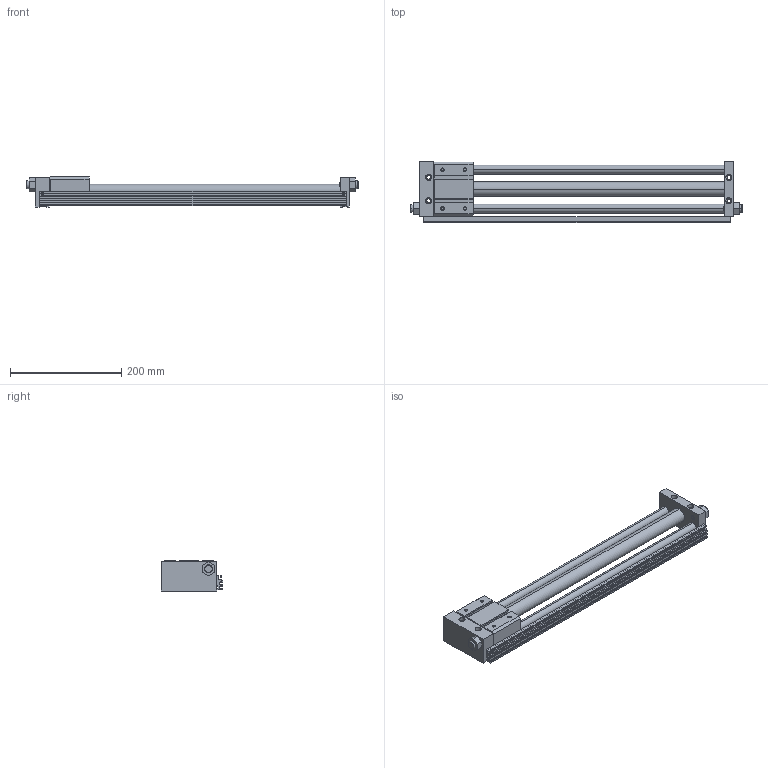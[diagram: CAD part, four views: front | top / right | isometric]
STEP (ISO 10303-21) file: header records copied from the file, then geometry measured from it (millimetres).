
FILE_DESCRIPTION((''),'2;1');
FILE_NAME('C:\Documents and Settings\Administrator\桌面\GYS\GYS25\GYSR25X450.stp','2012-03-06T10:28:09',('Administrator'),(''),'Autodesk Inventor 8','Autodesk Inventor 8','');
FILE_SCHEMA(('AUTOMOTIVE_DESIGN { 1 0 10303 214 1 1 1 1 }'));
Length unit declared in the file: millimetre
Products named in the file (3): GYSR25X450; GYS25X450; GYS25160X450
Assembly tree (2 placements, depth 2):
  GYSR25X450
    GYS25X450
    GYS25160X450
Bounding box: 597 x 110.5 x 54 mm (x, y, z)
Volume: 1055829.2 mm3; surface area: 221804.2 mm2
Topology: 2 solids, 2 shells, 276 faces, 718 edges, 468 vertices
Faces by surface type: plane 154, cylinder 80, cone 32, bspline 10
Entity records: 8662 total; most frequent: CARTESIAN_POINT 1609, DIRECTION 1476, ORIENTED_EDGE 1436, EDGE_CURVE 718, VECTOR 502, LINE 502, AXIS2_PLACEMENT_3D 487, VERTEX_POINT 468
